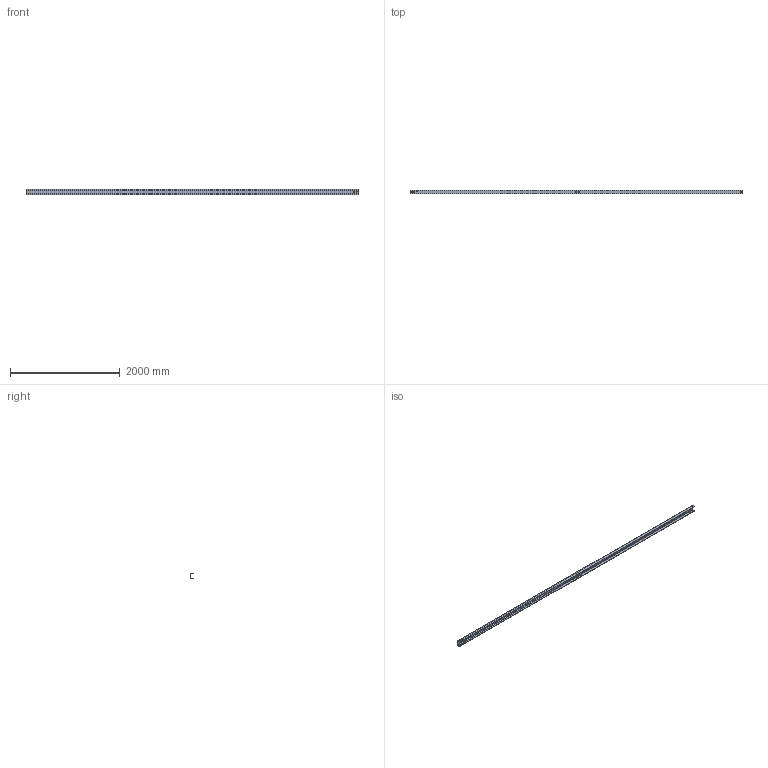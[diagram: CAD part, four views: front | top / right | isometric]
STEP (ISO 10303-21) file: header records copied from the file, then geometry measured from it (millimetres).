
FILE_DESCRIPTION (( 'STEP AP214' ), '1' );
FILE_NAME ('CCJ029-REP.005 - POUTRE B1-B3.STEP', '2024-01-31T08:31:00', ( '' ), ( '' ), 'SwSTEP 2.0', 'SolidWorks 2021', '' );
FILE_SCHEMA (( 'AUTOMOTIVE_DESIGN' ));
Length unit declared in the file: millimetre
Products named in the file (1): CCJ029-REP.005 - POUTRE B1-B3
Bounding box: 6055 x 55 x 100 mm (x, y, z)
Volume: 7553675.2 mm3; surface area: 2439327.4 mm2
Topology: 1 solids, 1 shells, 81 faces, 222 edges, 148 vertices
Faces by surface type: cylinder 34, bspline 26, plane 21
Entity records: 4590 total; most frequent: CARTESIAN_POINT 2542, ORIENTED_EDGE 444, DIRECTION 350, EDGE_CURVE 222, VERTEX_POINT 148, AXIS2_PLACEMENT_3D 124, EDGE_LOOP 118, LINE 102
